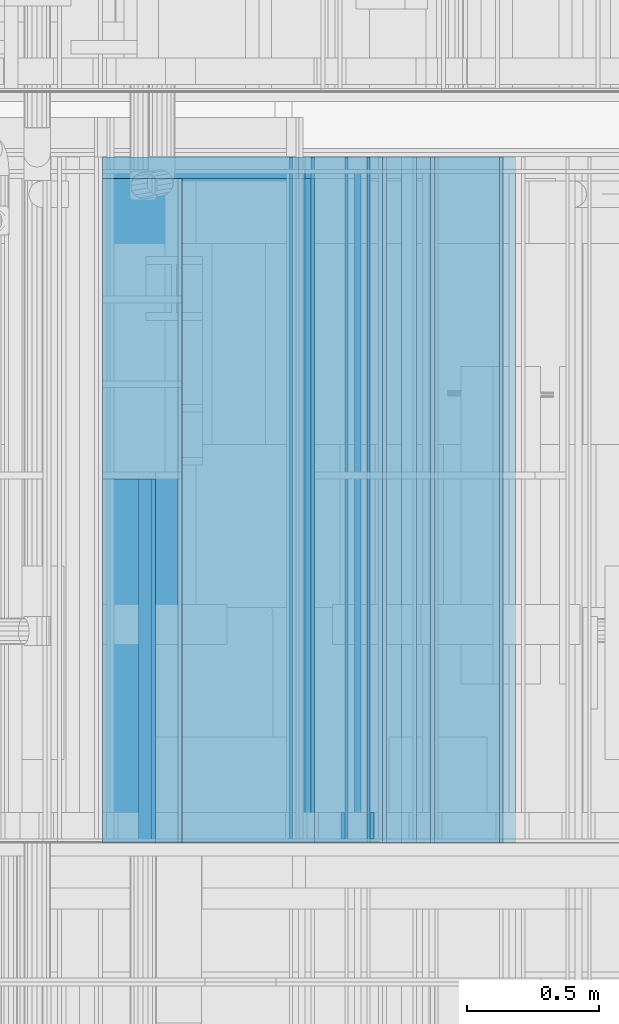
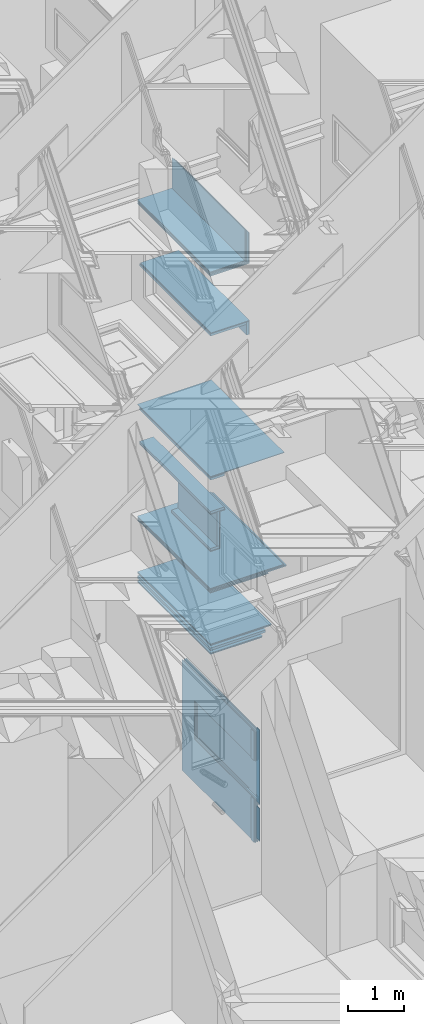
# One storey, part 120 of 583: 34 building element parts, 1 opening, 12 elements without a shape of their own.
"""IFC2X3 building model written with IfcOpenShell, lengths in metres."""

from ifc_helpers import new_model, entity, si_unit, converted_unit, derived_unit, money_unit, direction, frame, frame_2d, origin_with_axes, place, context, subcontext, project, spatial, polyline, rectangle, outline, extrude, material, type_object, element, aggregate, save


model = new_model("IFC2X3")

# Units and contexts
model_context = context("Model", 3, precision=1e-05, world=origin_with_axes(), true_north=direction((0.0, 1.0)))
body_context = subcontext(model_context, "Body", "Model", "MODEL_VIEW", scale=1.0)
ifc_project = project(units=[si_unit("LENGTHUNIT", "METRE"), si_unit("AREAUNIT", "SQUARE_METRE"), si_unit("VOLUMEUNIT", "CUBIC_METRE"), si_unit("ABSORBEDDOSEUNIT", "GRAY"), si_unit("AMOUNTOFSUBSTANCEUNIT", "MOLE"), si_unit("DOSEEQUIVALENTUNIT", "SIEVERT"), si_unit("ELECTRICCAPACITANCEUNIT", "FARAD"), si_unit("ELECTRICCHARGEUNIT", "COULOMB"), si_unit("ELECTRICCONDUCTANCEUNIT", "SIEMENS"), si_unit("ELECTRICCURRENTUNIT", "AMPERE"), si_unit("ELECTRICRESISTANCEUNIT", "OHM"), si_unit("ELECTRICVOLTAGEUNIT", "VOLT"), si_unit("ENERGYUNIT", "JOULE"), si_unit("FORCEUNIT", "NEWTON"), si_unit("FREQUENCYUNIT", "HERTZ"), si_unit("ILLUMINANCEUNIT", "LUX"), si_unit("INDUCTANCEUNIT", "HENRY"), si_unit("LUMINOUSFLUXUNIT", "LUMEN"), si_unit("LUMINOUSINTENSITYUNIT", "CANDELA"), si_unit("MAGNETICFLUXDENSITYUNIT", "TESLA"), si_unit("MAGNETICFLUXUNIT", "WEBER"), si_unit("MASSUNIT", "GRAM"), converted_unit("PLANEANGLEUNIT", "degree", entity("IfcReal", 0.0174532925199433), si_unit("PLANEANGLEUNIT", "RADIAN"), dimensions=[0, 0, 0, 0, 0, 0, 0]), si_unit("POWERUNIT", "WATT"), si_unit("PRESSUREUNIT", "PASCAL"), si_unit("RADIOACTIVITYUNIT", "BECQUEREL"), si_unit("SOLIDANGLEUNIT", "STERADIAN"), si_unit("THERMODYNAMICTEMPERATUREUNIT", "KELVIN"), si_unit("TIMEUNIT", "SECOND"), derived_unit("ACCELERATIONUNIT", [(si_unit("LENGTHUNIT", "METRE"), 1), (si_unit("TIMEUNIT", "SECOND"), -2)]), derived_unit("ANGULARVELOCITYUNIT", [(converted_unit("PLANEANGLEUNIT", "degree", entity("IfcReal", 0.0174532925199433), si_unit("PLANEANGLEUNIT", "RADIAN"), dimensions=[0, 0, 0, 0, 0, 0, 0]), 1), (si_unit("TIMEUNIT", "SECOND"), -1)]), derived_unit("CURVATUREUNIT", [(converted_unit("PLANEANGLEUNIT", "degree", entity("IfcReal", 0.0174532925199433), si_unit("PLANEANGLEUNIT", "RADIAN"), dimensions=[0, 0, 0, 0, 0, 0, 0]), 1), (si_unit("LENGTHUNIT", "METRE"), -1)]), derived_unit("DYNAMICVISCOSITYUNIT", [(si_unit("PRESSUREUNIT", "PASCAL"), 1), (si_unit("TIMEUNIT", "SECOND"), 1)]), derived_unit("HEATFLUXDENSITYUNIT", [(si_unit("POWERUNIT", "WATT"), 1), (si_unit("LENGTHUNIT", "METRE"), -2)]), derived_unit("HEATINGVALUEUNIT", [(si_unit("ENERGYUNIT", "JOULE"), 1), (si_unit("MASSUNIT", "GRAM"), -1)]), derived_unit("INTEGERCOUNTRATEUNIT", [(si_unit("TIMEUNIT", "SECOND"), -1)]), derived_unit("IONCONCENTRATIONUNIT", [(si_unit("MASSUNIT", "GRAM"), 1), (si_unit("VOLUMEUNIT", "CUBIC_METRE"), -1)]), derived_unit("ISOTHERMALMOISTURECAPACITYUNIT", [(si_unit("VOLUMEUNIT", "CUBIC_METRE"), 1), (si_unit("MASSUNIT", "GRAM"), -1)]), derived_unit("KINEMATICVISCOSITYUNIT", [(si_unit("AREAUNIT", "SQUARE_METRE"), 1), (si_unit("TIMEUNIT", "SECOND"), -1)]), derived_unit("LINEARFORCEUNIT", [(si_unit("FORCEUNIT", "NEWTON"), 1), (si_unit("LENGTHUNIT", "METRE"), -1)]), derived_unit("LINEARMOMENTUNIT", [(si_unit("FORCEUNIT", "NEWTON"), 1), (si_unit("LENGTHUNIT", "METRE"), -1)]), derived_unit("LINEARSTIFFNESSUNIT", [(si_unit("FORCEUNIT", "NEWTON"), 1), (si_unit("LENGTHUNIT", "METRE"), -1)]), derived_unit("LINEARVELOCITYUNIT", [(si_unit("LENGTHUNIT", "METRE"), 1), (si_unit("TIMEUNIT", "SECOND"), -1)]), derived_unit("LUMINOUSINTENSITYDISTRIBUTIONUNIT", [(si_unit("LUMINOUSINTENSITYUNIT", "CANDELA"), 1), (si_unit("LUMINOUSFLUXUNIT", "LUMEN"), -1)]), derived_unit("MASSDENSITYUNIT", [(si_unit("MASSUNIT", "GRAM"), 1), (si_unit("VOLUMEUNIT", "CUBIC_METRE"), -1)]), derived_unit("MASSFLOWRATEUNIT", [(si_unit("MASSUNIT", "GRAM"), 1), (si_unit("TIMEUNIT", "SECOND"), -1)]), derived_unit("MASSPERLENGTHUNIT", [(si_unit("MASSUNIT", "GRAM"), 1), (si_unit("LENGTHUNIT", "METRE"), -1)]), derived_unit("MODULUSOFELASTICITYUNIT", [(si_unit("FORCEUNIT", "NEWTON"), 1), (si_unit("AREAUNIT", "SQUARE_METRE"), -1)]), derived_unit("MODULUSOFLINEARSUBGRADEREACTIONUNIT", [(si_unit("FORCEUNIT", "NEWTON"), 1), (si_unit("LENGTHUNIT", "METRE"), -2)]), derived_unit("MODULUSOFROTATIONALSUBGRADEREACTIONUNIT", [(si_unit("FORCEUNIT", "NEWTON"), 1), (si_unit("LENGTHUNIT", "METRE"), 1)]), derived_unit("MODULUSOFSUBGRADEREACTIONUNIT", [(si_unit("FORCEUNIT", "NEWTON"), 1), (si_unit("VOLUMEUNIT", "CUBIC_METRE"), -1)]), derived_unit("MOISTUREDIFFUSIVITYUNIT", [(si_unit("VOLUMEUNIT", "CUBIC_METRE"), 1), (si_unit("TIMEUNIT", "SECOND"), -1)]), derived_unit("MOLECULARWEIGHTUNIT", [(si_unit("MASSUNIT", "GRAM"), 1), (si_unit("AMOUNTOFSUBSTANCEUNIT", "MOLE"), -1)]), derived_unit("PLANARFORCEUNIT", [(si_unit("FORCEUNIT", "NEWTON"), 1), (si_unit("LENGTHUNIT", "METRE"), -2)]), derived_unit("ROTATIONALFREQUENCYUNIT", [(si_unit("TIMEUNIT", "SECOND"), -1)]), derived_unit("ROTATIONALMASSUNIT", [(si_unit("MASSUNIT", "GRAM"), 1), (si_unit("LENGTHUNIT", "METRE"), 2)]), derived_unit("ROTATIONALSTIFFNESSUNIT", [(si_unit("FORCEUNIT", "NEWTON"), 1), (si_unit("LENGTHUNIT", "METRE"), 1), (converted_unit("PLANEANGLEUNIT", "degree", entity("IfcReal", 0.0174532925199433), si_unit("PLANEANGLEUNIT", "RADIAN"), dimensions=[0, 0, 0, 0, 0, 0, 0]), -1)]), derived_unit("SECTIONAREAINTEGRALUNIT", [(si_unit("LENGTHUNIT", "METRE"), 5)]), derived_unit("SECTIONMODULUSUNIT", [(si_unit("LENGTHUNIT", "METRE"), 3)]), derived_unit("SHEARMODULUSUNIT", [(si_unit("FORCEUNIT", "NEWTON"), 1), (si_unit("AREAUNIT", "SQUARE_METRE"), -1)]), derived_unit("SOUNDPOWERUNIT", [(si_unit("ENERGYUNIT", "JOULE"), 1), (si_unit("TIMEUNIT", "SECOND"), -1)]), derived_unit("SPECIFICHEATCAPACITYUNIT", [(si_unit("FORCEUNIT", "NEWTON"), 1), (si_unit("MASSUNIT", "GRAM"), -1), (si_unit("THERMODYNAMICTEMPERATUREUNIT", "KELVIN"), -1)]), derived_unit("TEMPERATUREGRADIENTUNIT", [(si_unit("THERMODYNAMICTEMPERATUREUNIT", "KELVIN"), 1), (si_unit("LENGTHUNIT", "METRE"), -1)]), derived_unit("THERMALADMITTANCEUNIT", [(si_unit("POWERUNIT", "WATT"), 1), (si_unit("AREAUNIT", "SQUARE_METRE"), -1), (si_unit("THERMODYNAMICTEMPERATUREUNIT", "KELVIN"), -1)]), derived_unit("THERMALCONDUCTANCEUNIT", [(si_unit("POWERUNIT", "WATT"), 1), (si_unit("LENGTHUNIT", "METRE"), -1), (si_unit("THERMODYNAMICTEMPERATUREUNIT", "KELVIN"), -1)]), derived_unit("THERMALEXPANSIONCOEFFICIENTUNIT", [(si_unit("THERMODYNAMICTEMPERATUREUNIT", "KELVIN"), -1)]), derived_unit("THERMALRESISTANCEUNIT", [(si_unit("AREAUNIT", "SQUARE_METRE"), 1), (si_unit("POWERUNIT", "WATT"), -1)]), derived_unit("THERMALTRANSMITTANCEUNIT", [(si_unit("POWERUNIT", "WATT"), 1), (si_unit("AREAUNIT", "SQUARE_METRE"), -1), (si_unit("THERMODYNAMICTEMPERATUREUNIT", "KELVIN"), -1)]), derived_unit("TORQUEUNIT", [(si_unit("FORCEUNIT", "NEWTON"), 1), (si_unit("LENGTHUNIT", "METRE"), 1)]), derived_unit("VAPORPERMEABILITYUNIT", [(si_unit("MASSUNIT", "GRAM"), 1), (si_unit("TIMEUNIT", "SECOND"), -1)]), derived_unit("VOLUMETRICFLOWRATEUNIT", [(si_unit("VOLUMEUNIT", "CUBIC_METRE"), 1), (si_unit("TIMEUNIT", "SECOND"), -1)]), derived_unit("WARPINGCONSTANTUNIT", [(si_unit("LENGTHUNIT", "METRE"), 6)]), derived_unit("WARPINGMOMENTUNIT", [(si_unit("FORCEUNIT", "NEWTON"), 1), (si_unit("LENGTHUNIT", "METRE"), 2)]), money_unit("GBP")], contexts=[model_context])

# Site, building, storey
site_placement = place(None, origin_with_axes())
site = spatial("IfcSite", under=ifc_project, at=site_placement, Name="Site", CompositionType="ELEMENT")
building_placement = place(site_placement, origin_with_axes())
building = spatial("IfcBuilding", under=site, at=building_placement, Name="Building01", CompositionType="ELEMENT")
storey_placement = place(building_placement, frame((0.0, 0.0, 20.78), z_axis=(0.0, 0.0, 1.0), x_axis=(1.0, 0.0, 0.0)))
storey = spatial("IfcBuildingStorey", under=building, at=storey_placement, Name="RL", CompositionType="ELEMENT", Elevation=20.78)

# Wall, building element part
wall_type_1 = type_object("IfcWallType", Name="SHE_A-Walls_Type05a_Partition_95mm_tall", PredefinedType="NOTDEFINED")
wall_1_placement = place(storey_placement, frame((10.38, 12.13, -7.851415), z_axis=(0.0, 1.0, 0.0), x_axis=(-1.0, 0.0, 0.0)))
wall_1 = element("IfcWall", 1, at=wall_1_placement, inside=storey, type_object=wall_type_1, Name="5A", ObjectType="SHE_A-Walls_Type05a_Partition_95mm_tall")
ifc_material_1 = material(Name="A_BSUK_WallInternal_Finishes_Plasterboard")
building_element_part_1_placement = place(wall_1_placement, origin_with_axes())
building_element_part_1 = element("IfcBuildingElementPart", 2, at=building_element_part_1_placement, material=ifc_material_1, Name="5", context=body_context, shape_type="SweptSolid", body=[
    extrude(outline(polyline([(1.56, -0.023), (0.048, -0.023), (0.06, -0.035), (1.56, -0.035), (1.56, -0.023)])), origin_with_axes(), (0.0, 0.0, 1.0), 2.59),
])
aggregate(wall_1, [building_element_part_1])

# Wall, building element parts
wall_type_2 = type_object("IfcWallType", Name="SHE_A-Walls_Type05c_PreWallShell_65mm", PredefinedType="NOTDEFINED")
wall_2_placement = place(storey_placement, frame((8.82, 12.13, -8.626129), z_axis=(0.0, 1.0, 0.0), x_axis=(1.0, 0.0, 0.0)))
wall_2 = element("IfcWall", 3, at=wall_2_placement, inside=storey, type_object=wall_type_2, Name="5C", ObjectType="SHE_A-Walls_Type05c_PreWallShell_65mm")
ifc_material_2 = material(Name="A_BSUK_OpeningsClearance")
placement_1 = place(wall_2_placement, origin_with_axes())
building_element_part_2 = element("IfcBuildingElementPart", 4, at=placement_1, material=ifc_material_2, Name="1", context=body_context, shape_type="SweptSolid", body=[
    extrude(rectangle(XDim=0.285, YDim=0.05, at=frame_2d((0.1425, 0.025), x_axis=(-1.0, 0.0))), origin_with_axes(), (0.0, 0.0, 1.0), 2.51),
])
ifc_material_3 = material(Name="A_BSUK_Walls_Timber")
building_element_part_3 = element("IfcBuildingElementPart", 5, at=placement_1, material=ifc_material_3, Name="2", context=body_context, shape_type="SweptSolid", body=[
    extrude(rectangle(XDim=0.3, YDim=0.015, at=frame_2d((0.15, 0.0575), x_axis=(-1.0, 0.0))), origin_with_axes(), (0.0, 0.0, 1.0), 2.51),
])
aggregate(wall_2, [building_element_part_2, building_element_part_3])

wall_3_placement = place(storey_placement, frame((8.82, 12.13, -7.951415), z_axis=(0.0, 1.0, 0.0), x_axis=(1.0, 0.0, 0.0)))
wall_3 = element("IfcWall", 6, at=wall_3_placement, inside=storey, type_object=wall_type_2, Name="5C", ObjectType="SHE_A-Walls_Type05c_PreWallShell_65mm")
placement_2 = place(wall_3_placement, origin_with_axes())
building_element_part_4 = element("IfcBuildingElementPart", 7, at=placement_2, material=ifc_material_2, Name="1", context=body_context, shape_type="SweptSolid", body=[
    extrude(rectangle(XDim=0.285, YDim=0.05, at=frame_2d((0.1425, -0.025), x_axis=(-1.0, 0.0))), origin_with_axes(), (0.0, 0.0, 1.0), 2.51),
])
building_element_part_5 = element("IfcBuildingElementPart", 8, at=placement_2, material=ifc_material_3, Name="2", context=body_context, shape_type="SweptSolid", body=[
    extrude(rectangle(XDim=0.3, YDim=0.015, at=frame_2d((0.15, -0.0575), x_axis=(-1.0, 0.0))), origin_with_axes(), (0.0, 0.0, 1.0), 2.51),
])
aggregate(wall_3, [building_element_part_4, building_element_part_5])

wall_4_placement = place(storey_placement, frame((9.555, 12.13, -4.836868), z_axis=(0.0, 1.0, 0.0), x_axis=(-1.0, 0.0, 0.0)))
wall_4 = element("IfcWall", 9, at=wall_4_placement, inside=storey, type_object=wall_type_2, Name="5C", ObjectType="SHE_A-Walls_Type05c_PreWallShell_65mm")
placement_3 = place(wall_4_placement, origin_with_axes())
building_element_part_6 = element("IfcBuildingElementPart", 10, at=placement_3, material=ifc_material_2, Name="1", context=body_context, shape_type="SweptSolid", body=[
    extrude(rectangle(XDim=0.735, YDim=0.05, at=frame_2d((0.3675, 0.025), x_axis=(-1.0, 0.0))), origin_with_axes(), (0.0, 0.0, 1.0), 2.51),
])
building_element_part_7 = element("IfcBuildingElementPart", 11, at=placement_3, material=ifc_material_3, Name="2", context=body_context, shape_type="SweptSolid", body=[
    extrude(rectangle(XDim=0.785, YDim=0.015, at=frame_2d((0.3275, 0.0575), x_axis=(-1.0, 0.0))), origin_with_axes(), (0.0, 0.0, 1.0), 2.51),
])
aggregate(wall_4, [building_element_part_6, building_element_part_7])

wall_5_placement = place(storey_placement, frame((9.555, 12.13, -5.071868), z_axis=(0.0, 1.0, 0.0), x_axis=(0.0, 0.0, 1.0)))
wall_5 = element("IfcWall", 12, at=wall_5_placement, inside=storey, type_object=wall_type_2, Name="5C", ObjectType="SHE_A-Walls_Type05c_PreWallShell_65mm")
placement_4 = place(wall_5_placement, origin_with_axes())
building_element_part_8 = element("IfcBuildingElementPart", 13, at=placement_4, material=ifc_material_2, Name="1", context=body_context, shape_type="SweptSolid", body=[
    extrude(rectangle(XDim=0.285, YDim=0.05, at=frame_2d((0.1425, 0.025), x_axis=(-1.0, 0.0))), origin_with_axes(), (0.0, 0.0, 1.0), 2.51),
])
building_element_part_9 = element("IfcBuildingElementPart", 14, at=placement_4, material=ifc_material_3, Name="2", context=body_context, shape_type="SweptSolid", body=[
    extrude(rectangle(XDim=0.285, YDim=0.015, at=frame_2d((0.1425, 0.0575), x_axis=(-1.0, 0.0))), origin_with_axes(), (0.0, 0.0, 1.0), 2.51),
])
aggregate(wall_5, [building_element_part_8, building_element_part_9])

wall_6_placement = place(storey_placement, frame((8.82, 12.13, -3.506868), z_axis=(0.0, 1.0, 0.0), x_axis=(1.0, 0.0, 0.0)))
wall_6 = element("IfcWall", 15, at=wall_6_placement, inside=storey, type_object=wall_type_1, Name="5A", ObjectType="SHE_A-Walls_Type05a_Partition_95mm_tall")
ifc_material_4 = material(Name="A_BSUK_Insulation")
placement_5 = place(wall_6_placement, origin_with_axes())
building_element_part_10 = element("IfcBuildingElementPart", 16, at=placement_5, material=ifc_material_4, Name="1", context=body_context, shape_type="SweptSolid", body=[
    extrude(outline(polyline([(0.765, 0.0), (0.0, 0.0), (0.0, -0.025), (0.74, -0.025), (0.765, 0.0)])), origin_with_axes(), (0.0, 0.0, 1.0), 2.59),
])
building_element_part_11 = element("IfcBuildingElementPart", 17, at=placement_5, material=ifc_material_1, Name="4", context=body_context, shape_type="SweptSolid", body=[
    extrude(outline(polyline([(0.8, 0.035), (0.0, 0.035), (0.0, 0.023), (0.788, 0.023), (0.8, 0.035)])), origin_with_axes(), (0.0, 0.0, 1.0), 2.59),
])
building_element_part_12 = element("IfcBuildingElementPart", 18, at=placement_5, material=ifc_material_1, Name="5", context=body_context, shape_type="SweptSolid", body=[
    extrude(outline(polyline([(0.717, -0.048), (0.0, -0.048), (0.0, -0.06), (0.705, -0.06), (0.717, -0.048)])), origin_with_axes(), (0.0, 0.0, 1.0), 2.59),
])
aggregate(wall_6, [building_element_part_10, building_element_part_11, building_element_part_12])

wall_7_placement = place(storey_placement, frame((9.585, 12.13, -3.506868), z_axis=(0.0, 1.0, 0.0), x_axis=(0.0, 0.0, 1.0)))
wall_7 = element("IfcWall", 19, at=wall_7_placement, inside=storey, type_object=wall_type_1, Name="5A", ObjectType="SHE_A-Walls_Type05a_Partition_95mm_tall")
placement_6 = place(wall_7_placement, origin_with_axes())
building_element_part_13 = element("IfcBuildingElementPart", 20, at=placement_6, material=ifc_material_4, Name="1", context=body_context, shape_type="SweptSolid", body=[
    extrude(outline(polyline([(0.666868, 0.0), (0.0, 0.0), (0.025, -0.025), (0.691868, -0.025), (0.666868, 0.0)])), origin_with_axes(), (0.0, 0.0, 1.0), 2.59),
])
building_element_part_14 = element("IfcBuildingElementPart", 21, at=placement_6, material=ifc_material_1, Name="4", context=body_context, shape_type="SweptSolid", body=[
    extrude(outline(polyline([(0.631868, 0.035), (-0.035, 0.035), (-0.023, 0.023), (0.643868, 0.023), (0.631868, 0.035)])), origin_with_axes(), (0.0, 0.0, 1.0), 2.59),
])
building_element_part_15 = element("IfcBuildingElementPart", 22, at=placement_6, material=ifc_material_1, Name="5", context=body_context, shape_type="SweptSolid", body=[
    extrude(outline(polyline([(0.714868, -0.048), (0.048, -0.048), (0.06, -0.06), (0.726868, -0.06), (0.714868, -0.048)])), origin_with_axes(), (0.0, 0.0, 1.0), 2.59),
])
aggregate(wall_7, [building_element_part_13, building_element_part_14, building_element_part_15])

wall_type_3 = type_object("IfcWallType", Name="SHE_A-Walls_Type01c_Partywall_225mm_twin_tall", PredefinedType="NOTDEFINED")
wall_8_placement = place(storey_placement, frame((8.82, 12.13, -11.633), z_axis=(0.0, 1.0, 0.0), x_axis=(1.0, 0.0, 0.0)))
wall_8 = element("IfcWall", 23, at=wall_8_placement, inside=storey, type_object=wall_type_3, Name="1C", ObjectType="SHE_A-Walls_Type01c_Partywall_225mm_twin_tall")
placement_7 = place(wall_8_placement, origin_with_axes())
building_element_part_16 = element("IfcBuildingElementPart", 24, at=placement_7, material=ifc_material_4, Name="1", context=body_context, shape_type="SweptSolid", body=[
    extrude(rectangle(XDim=1.129704, YDim=0.05, at=frame_2d((0.564852, -0.025), x_axis=(-1.0, 0.0))), origin_with_axes(), (0.0, 0.0, 1.0), 2.59),
])
building_element_part_17 = element("IfcBuildingElementPart", 25, at=placement_7, material=ifc_material_1, Name="3", context=body_context, shape_type="SweptSolid", body=[
    extrude(outline(polyline([(1.042704, 0.087), (0.0, 0.087), (0.0, 0.072), (1.057704, 0.072), (1.042704, 0.087)])), origin_with_axes(), (0.0, 0.0, 1.0), 2.59),
])
building_element_part_18 = element("IfcBuildingElementPart", 26, at=placement_7, material=ifc_material_1, Name="4", context=body_context, shape_type="SweptSolid", body=[
    extrude(outline(polyline([(1.057704, 0.072), (0.0, 0.072), (0.0, 0.057), (1.072704, 0.057), (1.057704, 0.072)])), origin_with_axes(), (0.0, 0.0, 1.0), 2.59),
])
building_element_part_19 = element("IfcBuildingElementPart", 27, at=placement_7, material=ifc_material_1, Name="5", context=body_context, shape_type="SweptSolid", body=[
    extrude(rectangle(XDim=1.237704, YDim=0.015, at=frame_2d((0.618852, -0.1155), x_axis=(-1.0, 0.0))), origin_with_axes(), (0.0, 0.0, 1.0), 2.59),
])
building_element_part_20 = element("IfcBuildingElementPart", 28, at=placement_7, material=ifc_material_1, Name="6", context=body_context, shape_type="SweptSolid", body=[
    extrude(rectangle(XDim=1.252704, YDim=0.015, at=frame_2d((0.626352, -0.1305), x_axis=(-1.0, 0.0))), origin_with_axes(), (0.0, 0.0, 1.0), 2.59),
])
aggregate(wall_8, [building_element_part_16, building_element_part_17, building_element_part_18, building_element_part_19, building_element_part_20])

# Wall, opening, building element parts
wall_9_placement = place(storey_placement, frame((9.79567, 12.13, -13.715331), z_axis=(0.0, 1.0, 0.0), x_axis=(0.0, 0.0, -1.0)))
wall_9 = element("IfcWall", 29, at=wall_9_placement, inside=storey, type_object=wall_type_1, Name="5A", ObjectType="SHE_A-Walls_Type05a_Partition_95mm_tall")
opening_placement = place(wall_9_placement, frame((0.624, 0.06, 0.0), z_axis=(0.0, 0.0, 1.0), x_axis=(1.0, 0.0, 0.0)))
element("IfcOpeningElement", 30, at=opening_placement, cuts=wall_9, Name="Opening", ObjectType="Opening", context=body_context, shape_type="SweptSolid", body=[
    extrude(rectangle(XDim=2.142, YDim=0.834, at=frame_2d((-0.417, 1.071), x_axis=(0.0, -1.0))), frame((0.0, -0.09, 0.0), z_axis=(0.0, 1.0, 0.0), x_axis=(-1.0, 0.0, 0.0)), (0.0, 0.0, 1.0), 0.18),
])
placement_8 = place(wall_9_placement, origin_with_axes())
building_element_part_21 = element("IfcBuildingElementPart", 31, at=placement_8, material=ifc_material_4, Name="1", context=body_context, shape_type="SweptSolid", body=[
    extrude(rectangle(XDim=2.395, YDim=0.025, at=frame_2d((1.1975, 0.0125), x_axis=(-1.0, 0.0))), origin_with_axes(), (0.0, 0.0, 1.0), 2.59),
])
building_element_part_22 = element("IfcBuildingElementPart", 32, at=placement_8, material=ifc_material_3, Name="2", context=body_context, shape_type="SweptSolid", body=[
    extrude(rectangle(XDim=2.395, YDim=0.015, at=frame_2d((1.1975, 0.0675), x_axis=(-1.0, 0.0))), frame((0.0, 0.0, 0.015), z_axis=(0.0, 0.0, 1.0), x_axis=(1.0, 0.0, 0.0)), (0.0, 0.0, 1.0), 0.1),
])
building_element_part_23 = element("IfcBuildingElementPart", 33, at=placement_8, material=ifc_material_3, Name="3", context=body_context, shape_type="SweptSolid", body=[
    extrude(rectangle(XDim=1.6, YDim=0.015, at=frame_2d((0.8, -0.0425), x_axis=(-1.0, 0.0))), frame((0.0, 0.0, 0.015), z_axis=(0.0, 0.0, 1.0), x_axis=(1.0, 0.0, 0.0)), (0.0, 0.0, 1.0), 0.1),
])
building_element_part_24 = element("IfcBuildingElementPart", 34, at=placement_8, material=ifc_material_3, Name="4", context=body_context, shape_type="SweptSolid", body=[
    extrude(rectangle(XDim=0.7, YDim=0.015, at=frame_2d((2.045, -0.0425), x_axis=(-1.0, 0.0))), frame((0.0, 0.0, 0.015), z_axis=(0.0, 0.0, 1.0), x_axis=(1.0, 0.0, 0.0)), (0.0, 0.0, 1.0), 0.1),
])
building_element_part_25 = element("IfcBuildingElementPart", 35, at=placement_8, material=ifc_material_1, Name="5", context=body_context, shape_type="SweptSolid", body=[
    extrude(rectangle(XDim=2.395, YDim=0.012, at=frame_2d((1.1975, 0.054), x_axis=(-1.0, 0.0))), origin_with_axes(), (0.0, 0.0, 1.0), 2.59),
])
building_element_part_26 = element("IfcBuildingElementPart", 36, at=placement_8, material=ifc_material_1, Name="6", context=body_context, shape_type="SweptSolid", body=[
    extrude(rectangle(XDim=1.612, YDim=0.012, at=frame_2d((0.806, -0.029), x_axis=(-1.0, 0.0))), origin_with_axes(), (0.0, 0.0, 1.0), 2.59),
])
building_element_part_27 = element("IfcBuildingElementPart", 37, at=placement_8, material=ifc_material_1, Name="7", context=body_context, shape_type="SweptSolid", body=[
    extrude(rectangle(XDim=0.712, YDim=0.012, at=frame_2d((2.039, -0.029), x_axis=(-1.0, 0.0))), origin_with_axes(), (0.0, 0.0, 1.0), 2.59),
])
aggregate(wall_9, [building_element_part_21, building_element_part_22, building_element_part_23, building_element_part_24, building_element_part_25, building_element_part_26, building_element_part_27])

# Wall, building element parts
wall_10_placement = place(storey_placement, frame((8.954996, 12.13, -8.676129), z_axis=(0.0, 1.0, 0.0), x_axis=(0.0, 0.0, -1.0)))
wall_10 = element("IfcWall", 38, at=wall_10_placement, inside=storey, type_object=wall_type_2, Name="5C", ObjectType="SHE_A-Walls_Type05c_PreWallShell_65mm")
placement_9 = place(wall_10_placement, origin_with_axes())
building_element_part_28 = element("IfcBuildingElementPart", 39, at=placement_9, material=ifc_material_2, Name="1", context=body_context, shape_type="SweptSolid", body=[
    extrude(rectangle(XDim=0.749998, YDim=0.05, at=frame_2d((0.374999, -0.025), x_axis=(-1.0, 0.0))), origin_with_axes(), (0.0, 0.0, 1.0), 1.375),
])
building_element_part_29 = element("IfcBuildingElementPart", 40, at=placement_9, material=ifc_material_3, Name="2", context=body_context, shape_type="SweptSolid", body=[
    extrude(rectangle(XDim=0.784998, YDim=0.015, at=frame_2d((0.407499, -0.0575), x_axis=(-1.0, 0.0))), origin_with_axes(), (0.0, 0.0, 1.0), 1.375),
])
aggregate(wall_10, [building_element_part_28, building_element_part_29])

wall_11_placement = place(storey_placement, frame((8.82, 12.13, -9.426127), z_axis=(0.0, 1.0, 0.0), x_axis=(1.0, 0.0, 0.0)))
wall_11 = element("IfcWall", 41, at=wall_11_placement, inside=storey, type_object=wall_type_2, Name="5C", ObjectType="SHE_A-Walls_Type05c_PreWallShell_65mm")
placement_10 = place(wall_11_placement, origin_with_axes())
building_element_part_30 = element("IfcBuildingElementPart", 42, at=placement_10, material=ifc_material_2, Name="1", context=body_context, shape_type="SweptSolid", body=[
    extrude(rectangle(XDim=0.184996, YDim=0.05, at=frame_2d((0.092498, 0.025), x_axis=(-1.0, 0.0))), origin_with_axes(), (0.0, 0.0, 1.0), 1.375),
])
building_element_part_31 = element("IfcBuildingElementPart", 43, at=placement_10, material=ifc_material_3, Name="2", context=body_context, shape_type="SweptSolid", body=[
    extrude(rectangle(XDim=0.199996, YDim=0.015, at=frame_2d((0.099998, 0.0575), x_axis=(-1.0, 0.0))), origin_with_axes(), (0.0, 0.0, 1.0), 1.375),
])
aggregate(wall_11, [building_element_part_30, building_element_part_31])

wall_12_placement = place(storey_placement, frame((8.82, 12.13, -10.326129), z_axis=(0.0, 1.0, 0.0), x_axis=(1.0, 0.0, 0.0)))
wall_12 = element("IfcWall", 44, at=wall_12_placement, inside=storey, type_object=wall_type_1, Name="5A", ObjectType="SHE_A-Walls_Type05a_Partition_95mm_tall")
placement_11 = place(wall_12_placement, origin_with_axes())
building_element_part_32 = element("IfcBuildingElementPart", 45, at=placement_11, material=ifc_material_4, Name="1", context=body_context, shape_type="SweptSolid", body=[
    extrude(rectangle(XDim=1.56, YDim=0.025, at=frame_2d((0.78, 0.0125), x_axis=(-1.0, 0.0))), origin_with_axes(), (0.0, 0.0, 1.0), 2.59),
])
building_element_part_33 = element("IfcBuildingElementPart", 46, at=placement_11, material=ifc_material_1, Name="5", context=body_context, shape_type="SweptSolid", body=[
    extrude(rectangle(XDim=1.184704, YDim=0.012, at=frame_2d((0.592352, 0.054), x_axis=(-1.0, 0.0))), origin_with_axes(), (0.0, 0.0, 1.0), 2.59),
])
building_element_part_34 = element("IfcBuildingElementPart", 47, at=placement_11, material=ifc_material_1, Name="6", context=body_context, shape_type="SweptSolid", body=[
    extrude(outline(polyline([(1.512, -0.023), (0.0, -0.023), (0.0, -0.035), (1.5, -0.035), (1.512, -0.023)])), origin_with_axes(), (0.0, 0.0, 1.0), 2.59),
])
aggregate(wall_12, [building_element_part_32, building_element_part_33, building_element_part_34])

save(model, "model.ifc")
